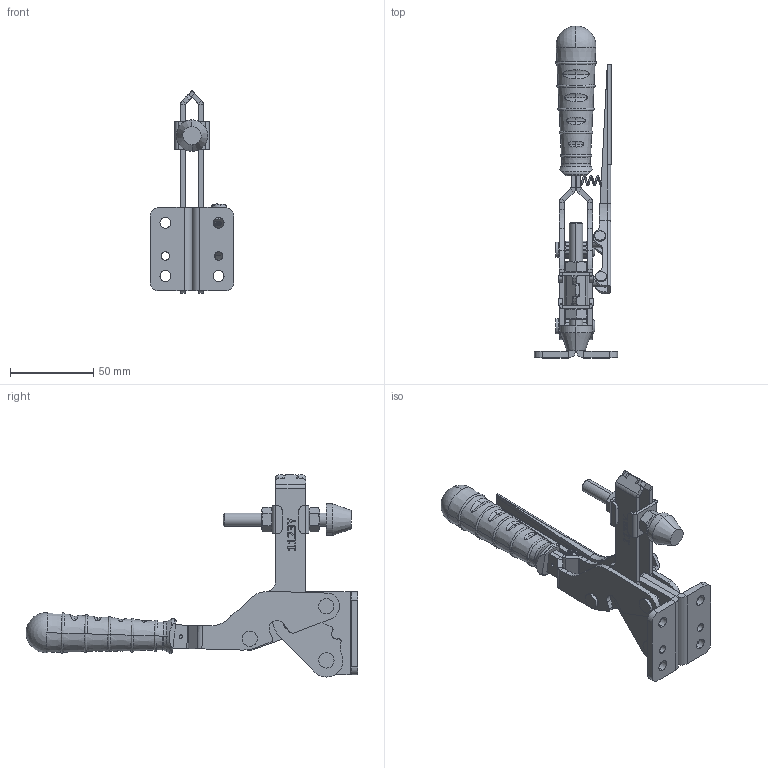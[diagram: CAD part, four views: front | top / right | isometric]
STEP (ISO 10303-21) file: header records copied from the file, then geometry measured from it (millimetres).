
FILE_DESCRIPTION (( 'STEP AP214' ), '1' );
FILE_NAME ('1123Y.STEP', '2020-07-10T13:18:11', ( '' ), ( '' ), 'SwSTEP 2.0', 'SolidWorks 2019', '' );
FILE_SCHEMA (( 'AUTOMOTIVE_DESIGN' ));
Length unit declared in the file: millimetre
Products named in the file (25): kilit pimi; Aynalama1407_Gövde; M8 Aský; Part2^1407_UA_Yan Kilit_Montaj; M8 Baský; 1407_Kilit_Sol_Mek; Burc_10x6x8; Pim_6x24_5; 1407_Cap6x14 Týrtýllý Pim; 1407_Hareket Kolu; 1407_Baský KoluSol; 1407_Baský Kolu; Burc_10x6x14; Pim_4x12_5; M8 Baský Grubu; 1407_Mafsal; M8 Somun; Kilit Yayý; Pim_6x18; 1123Y; 1407_Gövde; kare destek_2019yeni; Aynalama1407_Hareket Kolu; C90 Tutamak; Aynalamakilit koluSLDPRT
Assembly tree (30 placements, depth 3):
  Part2^1407_UA_Yan Kilit_Montaj
  1123Y
    1407_Gövde
    1407_Baský Kolu
    1407_Hareket Kolu
    1407_Mafsal  x2
    Aynalama1407_Gövde
    Aynalama1407_Hareket Kolu
    C90 Tutamak
    M8 Baský Grubu
      M8 Somun  x2
      M8 Aský  x2
      M8 Baský
    Pim_6x24_5  x2
    Burc_10x6x14  x2
    Burc_10x6x8
    Pim_6x18
    1407_Cap6x14 Týrtýllý Pim  x2
    Kilit Yayý
    1407_Baský KoluSol
    1407_Kilit_Sol_Mek
      kare destek_2019yeni
      kilit pimi
      Pim_4x12_5  x2
      Aynalamakilit koluSLDPRT
Bounding box: 50 x 199.53 x 121.51 mm (x, y, z)
Volume: 98339.1 mm3; surface area: 70149.5 mm2
Topology: 28 solids, 28 shells, 1637 faces, 4273 edges, 2755 vertices
Faces by surface type: plane 957, cylinder 365, bspline 171, cone 73, torus 69, sphere 2
Entity records: 49576 total; most frequent: CARTESIAN_POINT 16172, ORIENTED_EDGE 6548, DIRECTION 5847, EDGE_CURVE 3274, VERTEX_POINT 2112, VECTOR 1973, LINE 1973, AXIS2_PLACEMENT_3D 1937
